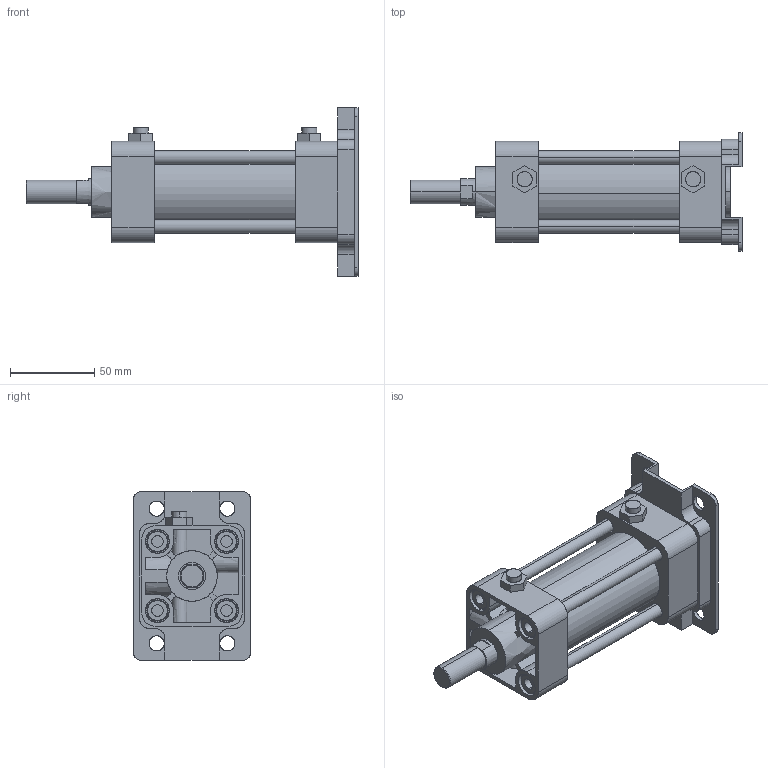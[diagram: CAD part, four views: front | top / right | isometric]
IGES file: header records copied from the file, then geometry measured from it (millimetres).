
Start section: SolidWorks IGES file using analytic representation for surfaces
Global section: file name: C:\Users\Toshiba\Desktop\KG2-40-50-B.IGS; native system: SolidWorks 2014; preprocessor: SolidWorks 2014; author: Toshiba; date: 160401.160739; units: millimetre
Bounding box: 197 x 70 x 100 mm (x, y, z)
Surface area: 102014 mm2 (no closed solid volume)
Topology: 0 solids, 0 shells, 427 faces, 6421 edges, 6387 vertices
Faces by surface type: revolution 224, bspline 203
